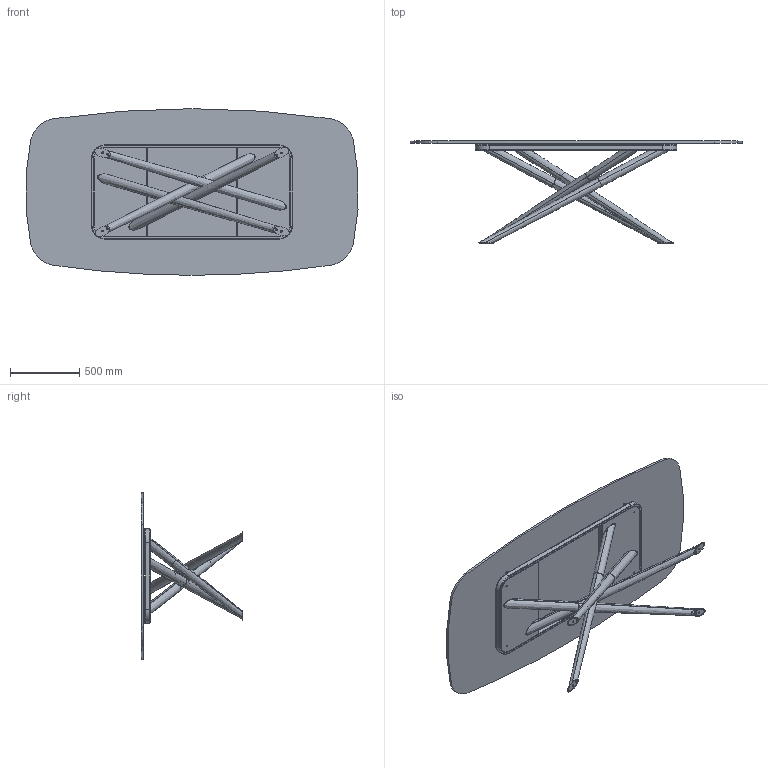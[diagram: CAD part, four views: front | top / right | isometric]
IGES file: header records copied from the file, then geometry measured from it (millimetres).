
Start section: SolidWorks IGES file using analytic representation for surfaces
Global section: file name: Y:\eforma\TECNICO\SOLIDWORKS\E-FORMA\1-TAVOLI\BALY\02 parts\BA43G.IGS; native system: SolidWorks 2022; preprocessor: SolidWorks 2022; author: eforma.tech; date: 240808.080649; units: millimetre
Bounding box: 2391.62 x 734 x 1200 mm (x, y, z)
Volume: 45661925.1 mm3; surface area: 9651442.7 mm2
Topology: 39 solids, 39 shells, 685 faces, 1383 edges, 770 vertices
Faces by surface type: revolution 357, plane 310, bspline 18
